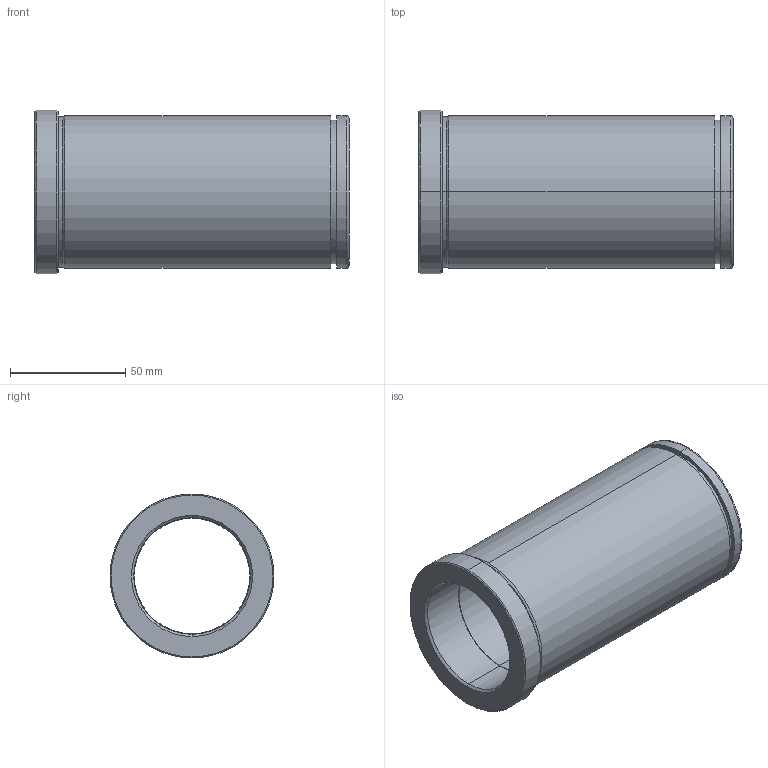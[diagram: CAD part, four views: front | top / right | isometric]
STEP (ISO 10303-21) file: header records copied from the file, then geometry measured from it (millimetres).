
FILE_DESCRIPTION(('CATIA V5 STEP Exchange'),'2;1');
FILE_NAME('C:\Users\Utente\Desktop\IO LAVORO\3D X SITO CF\X SITO\PLASTICA\553\553-50X136.stp','2021-06-08T18:22:53+00:00',('none'),('none'),'CATIA Version 5 Release 20 GA (IN-10)','CATIA V5 STEP AP203','none');
FILE_SCHEMA(('CONFIG_CONTROL_DESIGN'));
Length unit declared in the file: millimetre
Products named in the file (1): 553-50X136
Bounding box: 136 x 71 x 71 mm (x, y, z)
Volume: 201106.9 mm3; surface area: 54139.3 mm2
Topology: 1 solids, 1 shells, 32 faces, 102 edges, 76 vertices
Faces by surface type: cylinder 14, cone 8, plane 6, torus 4
Entity records: 1340 total; most frequent: CARTESIAN_POINT 395, ORIENTED_EDGE 204, DIRECTION 152, EDGE_CURVE 102, AXIS2_PLACEMENT_3D 99, VERTEX_POINT 76, CIRCLE 66, EDGE_LOOP 38
